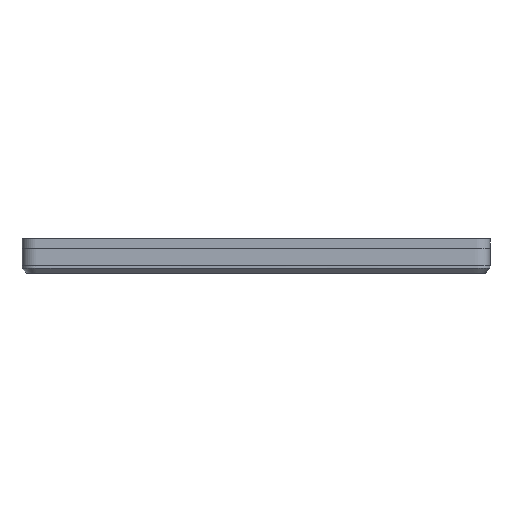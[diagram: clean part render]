
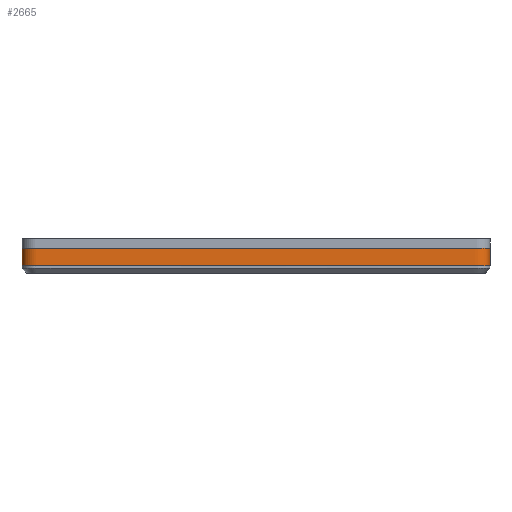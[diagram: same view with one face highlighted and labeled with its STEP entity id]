
A CAD part, left-side view. The second image highlights one B-rep face of the part: STEP entity #2665.
In plain terms, the highlighted free-form (B-spline) face has degree [1, 2] with [2, 11] control points.
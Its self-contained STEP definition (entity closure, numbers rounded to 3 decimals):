
#2665=ADVANCED_FACE($,(#6017),#42322,.T.);
#6017=FACE_OUTER_BOUND($,#9291,.T.);
#9291=EDGE_LOOP($,(#25461,#25462,#25463,#25464));
#25461=ORIENTED_EDGE($,*,*,#34588,.T.);
#25462=ORIENTED_EDGE($,*,*,#31032,.F.);
#25463=ORIENTED_EDGE($,*,*,#31652,.F.);
#25464=ORIENTED_EDGE($,*,*,#30721,.T.);
#30721=EDGE_CURVE($,#37774,#40295,#45213,.T.);
#31032=EDGE_CURVE($,#38085,#40296,#45524,.T.);
#31652=EDGE_CURVE($,#37774,#38085,#49357,.T.);
#34588=EDGE_CURVE($,#40295,#40296,#51750,.T.);
#37774=VERTEX_POINT($,#130979);
#38085=VERTEX_POINT($,#131290);
#40295=VERTEX_POINT($,#133500);
#40296=VERTEX_POINT($,#133501);
#42322=(
BOUNDED_SURFACE()
B_SPLINE_SURFACE(1,2,((#129903,#129904,#129905,#129906,#129907,#129908,#129909,
#129910,#129911,#129912,#129913),(#129914,#129915,#129916,#129917,#129918,
#129919,#129920,#129921,#129922,#129923,#129924)),.UNSPECIFIED.,.F.,.F.,
.F.)
B_SPLINE_SURFACE_WITH_KNOTS((2,2),(3,2,2,2,2,3),(0.,3.5),(-129.092,
-124.38,2.665,7.377,96.44,101.152),
.UNSPECIFIED.)
GEOMETRIC_REPRESENTATION_ITEM()
RATIONAL_B_SPLINE_SURFACE(((1.,0.707,1.,1.,1.,0.707,
1.,1.,1.,0.707,1.),(1.,0.707,1.,1.,1.,0.707,
1.,1.,1.,0.707,1.)))
REPRESENTATION_ITEM($)
SURFACE()
);
#45213=(
BOUNDED_CURVE()
B_SPLINE_CURVE(2,(#93156,#93157,#93158,#93159,#93160,#93161,#93162,#93163,
#93164,#93165,#93166),.UNSPECIFIED.,.F.,.F.)
B_SPLINE_CURVE_WITH_KNOTS((3,2,2,2,2,3),(-101.152,-96.44,
-7.377,-2.665,124.38,129.092),.UNSPECIFIED.)
CURVE()
GEOMETRIC_REPRESENTATION_ITEM()
RATIONAL_B_SPLINE_CURVE((1.,0.707,1.,1.,1.,0.707,
1.,1.,1.,0.707,1.))
REPRESENTATION_ITEM($)
);
#45524=(
BOUNDED_CURVE()
B_SPLINE_CURVE(2,(#94717,#94718,#94719,#94720,#94721,#94722,#94723,#94724,
#94725,#94726,#94727),.UNSPECIFIED.,.F.,.F.)
B_SPLINE_CURVE_WITH_KNOTS((3,2,2,2,2,3),(-101.152,-96.44,
-7.377,-2.665,124.38,129.092),.UNSPECIFIED.)
CURVE()
GEOMETRIC_REPRESENTATION_ITEM()
RATIONAL_B_SPLINE_CURVE((1.,0.707,1.,1.,1.,0.707,
1.,1.,1.,0.707,1.))
REPRESENTATION_ITEM($)
);
#49357=B_SPLINE_CURVE_WITH_KNOTS($,1,(#98737,#98738),.UNSPECIFIED.,.F.,.F.,
(2,2),(0.,3.5),.UNSPECIFIED.);
#51750=B_SPLINE_CURVE_WITH_KNOTS($,1,(#115074,#115075),.UNSPECIFIED.,.F.,
.F.,(2,2),(0.,3.5),.UNSPECIFIED.);
#93156=CARTESIAN_POINT($,(2.5,95.5,0.));
#93157=CARTESIAN_POINT($,(-0.5,95.5,0.));
#93158=CARTESIAN_POINT($,(-0.5,92.5,0.));
#93159=CARTESIAN_POINT($,(-0.5,47.5,0.));
#93160=CARTESIAN_POINT($,(-0.5,2.5,0.));
#93161=CARTESIAN_POINT($,(-0.5,-0.5,0.));
#93162=CARTESIAN_POINT($,(2.5,-0.5,0.));
#93163=CARTESIAN_POINT($,(66.5,-0.5,0.));
#93164=CARTESIAN_POINT($,(130.5,-0.5,0.));
#93165=CARTESIAN_POINT($,(133.5,-0.5,0.));
#93166=CARTESIAN_POINT($,(133.5,2.5,0.));
#94717=CARTESIAN_POINT($,(2.5,95.5,3.5));
#94718=CARTESIAN_POINT($,(-0.5,95.5,3.5));
#94719=CARTESIAN_POINT($,(-0.5,92.5,3.5));
#94720=CARTESIAN_POINT($,(-0.5,47.5,3.5));
#94721=CARTESIAN_POINT($,(-0.5,2.5,3.5));
#94722=CARTESIAN_POINT($,(-0.5,-0.5,3.5));
#94723=CARTESIAN_POINT($,(2.5,-0.5,3.5));
#94724=CARTESIAN_POINT($,(66.5,-0.5,3.5));
#94725=CARTESIAN_POINT($,(130.5,-0.5,3.5));
#94726=CARTESIAN_POINT($,(133.5,-0.5,3.5));
#94727=CARTESIAN_POINT($,(133.5,2.5,3.5));
#98737=CARTESIAN_POINT($,(2.5,95.5,0.));
#98738=CARTESIAN_POINT($,(2.5,95.5,3.5));
#115074=CARTESIAN_POINT($,(133.5,2.5,0.));
#115075=CARTESIAN_POINT($,(133.5,2.5,3.5));
#129903=CARTESIAN_POINT($,(133.5,2.5,0.));
#129904=CARTESIAN_POINT($,(133.5,-0.5,0.));
#129905=CARTESIAN_POINT($,(130.5,-0.5,0.));
#129906=CARTESIAN_POINT($,(66.5,-0.5,0.));
#129907=CARTESIAN_POINT($,(2.5,-0.5,0.));
#129908=CARTESIAN_POINT($,(-0.5,-0.5,0.));
#129909=CARTESIAN_POINT($,(-0.5,2.5,0.));
#129910=CARTESIAN_POINT($,(-0.5,47.5,0.));
#129911=CARTESIAN_POINT($,(-0.5,92.5,0.));
#129912=CARTESIAN_POINT($,(-0.5,95.5,0.));
#129913=CARTESIAN_POINT($,(2.5,95.5,0.));
#129914=CARTESIAN_POINT($,(133.5,2.5,3.5));
#129915=CARTESIAN_POINT($,(133.5,-0.5,3.5));
#129916=CARTESIAN_POINT($,(130.5,-0.5,3.5));
#129917=CARTESIAN_POINT($,(66.5,-0.5,3.5));
#129918=CARTESIAN_POINT($,(2.5,-0.5,3.5));
#129919=CARTESIAN_POINT($,(-0.5,-0.5,3.5));
#129920=CARTESIAN_POINT($,(-0.5,2.5,3.5));
#129921=CARTESIAN_POINT($,(-0.5,47.5,3.5));
#129922=CARTESIAN_POINT($,(-0.5,92.5,3.5));
#129923=CARTESIAN_POINT($,(-0.5,95.5,3.5));
#129924=CARTESIAN_POINT($,(2.5,95.5,3.5));
#130979=CARTESIAN_POINT($,(2.5,95.5,0.));
#131290=CARTESIAN_POINT($,(2.5,95.5,3.5));
#133500=CARTESIAN_POINT($,(133.5,2.5,0.));
#133501=CARTESIAN_POINT($,(133.5,2.5,3.5));
